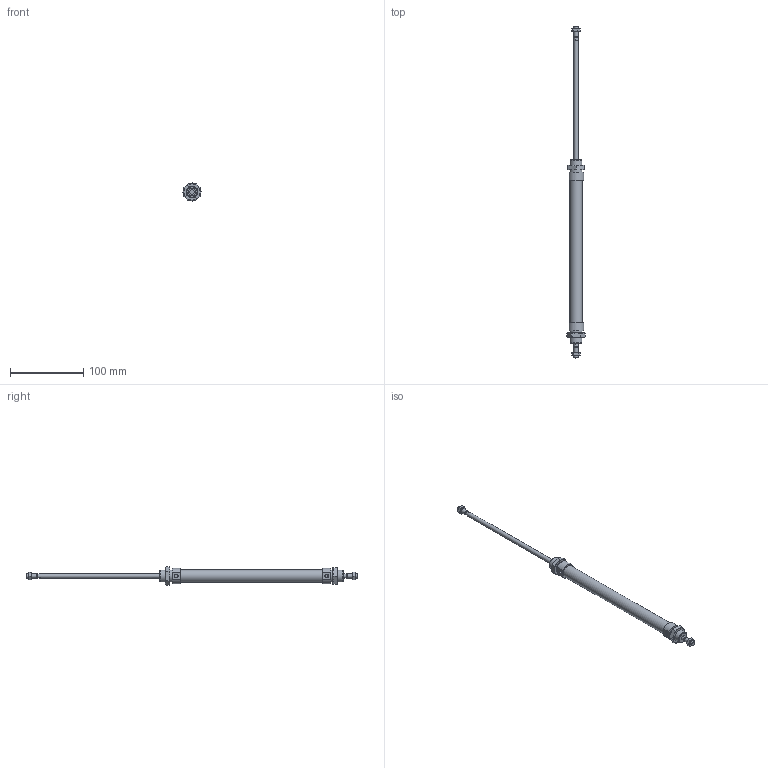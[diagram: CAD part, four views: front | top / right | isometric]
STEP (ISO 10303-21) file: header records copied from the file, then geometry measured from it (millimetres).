
FILE_DESCRIPTION((''),'2;1');
FILE_NAME('I:\Area Tecnica\Disegni\VARIE-3D\Componenti\1280\1282_##_####_#\1282_16_0160.iam.stp','2009-06-03T15:24:50',(''),(''),'Autodesk Inventor 2010','Autodesk Inventor 2010','');
FILE_SCHEMA(('AUTOMOTIVE_DESIGN { 1 0 10303 214 1 1 1 1 }'));
Length unit declared in the file: millimetre
Products named in the file (5): 1282_16_0160; C1282_16_160; S1282_16_160; 1200_16_05; 1200_16_06
Assembly tree (6 placements, depth 2):
  1282_16_0160
    C1282_16_160
    S1282_16_160
    1200_16_05  x2
    1200_16_06  x2
Bounding box: 25.4 x 452 x 25.4 mm (x, y, z)
Volume: 68231.9 mm3; surface area: 30784.1 mm2
Topology: 6 solids, 6 shells, 135 faces, 283 edges, 168 vertices
Faces by surface type: plane 56, cone 52, bspline 16, cylinder 11
Full cylindrical faces by diameter (mm): 5 x2, 6 x4, 16 x2, 17.2 x1
Entity records: 2543 total; most frequent: CARTESIAN_POINT 619, DIRECTION 358, ORIENTED_EDGE 316, AXIS2_PLACEMENT_3D 159, EDGE_CURVE 158, EDGE_LOOP 124, VERTEX_POINT 106, STYLED_ITEM 93
